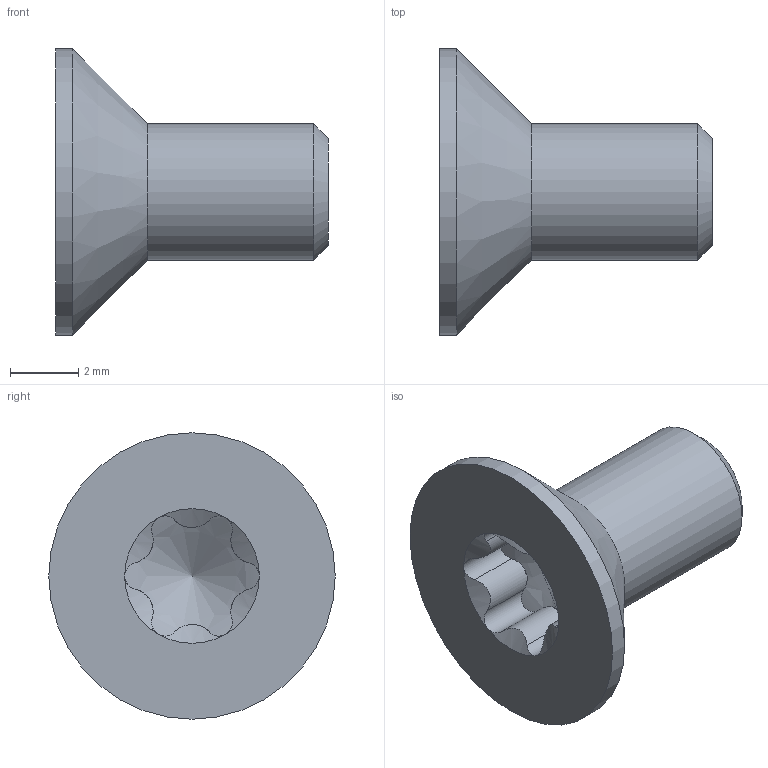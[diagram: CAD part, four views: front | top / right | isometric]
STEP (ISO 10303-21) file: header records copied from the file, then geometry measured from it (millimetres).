
FILE_DESCRIPTION(/* description */ ('BN 3803-Hexalobular (6 Lobe) socket countersunk flat head screws, fully threaded (ISO 14581), stainless steel A2'),/* implementation_level */ '2;1');
FILE_NAME(/* name */ 'C:\ADSK_DMS_WS\Designs\Vorschläge\Loc Schalen\Schraubenlängebestimmung\Schrauben\M4x8 Senkkopfschraube 90°mit TX20 A2.stp',/* time_stamp */ '2021-10-05T14:02:02+02:00',/* author */ ('gm'),/* organization */ ('BOSSARD'),/* preprocessor_version */ 'ST-DEVELOPER v16.5',/* originating_system */ 'Autodesk Inventor 2017',/* authorisation */ '');
FILE_SCHEMA (('AUTOMOTIVE_DESIGN { 1 0 10303 214 3 1 1 }'));
Length unit declared in the file: millimetre
Products named in the file (1): BN 3803  M4x8_INOX A2
Bounding box: 8 x 8.4 x 8.4 mm (x, y, z)
Volume: 144.1 mm3; surface area: 227 mm2
Topology: 1 solids, 1 shells, 31 faces, 83 edges, 54 vertices
Faces by surface type: cylinder 14, cone 9, plane 8
Full cylindrical faces by diameter (mm): 4 x1, 8.4 x1
Entity records: 1204 total; most frequent: CARTESIAN_POINT 492, ORIENTED_EDGE 154, DIRECTION 122, EDGE_CURVE 77, AXIS2_PLACEMENT_3D 55, VERTEX_POINT 53, B_SPLINE_CURVE_WITH_KNOTS 42, EDGE_LOOP 36
